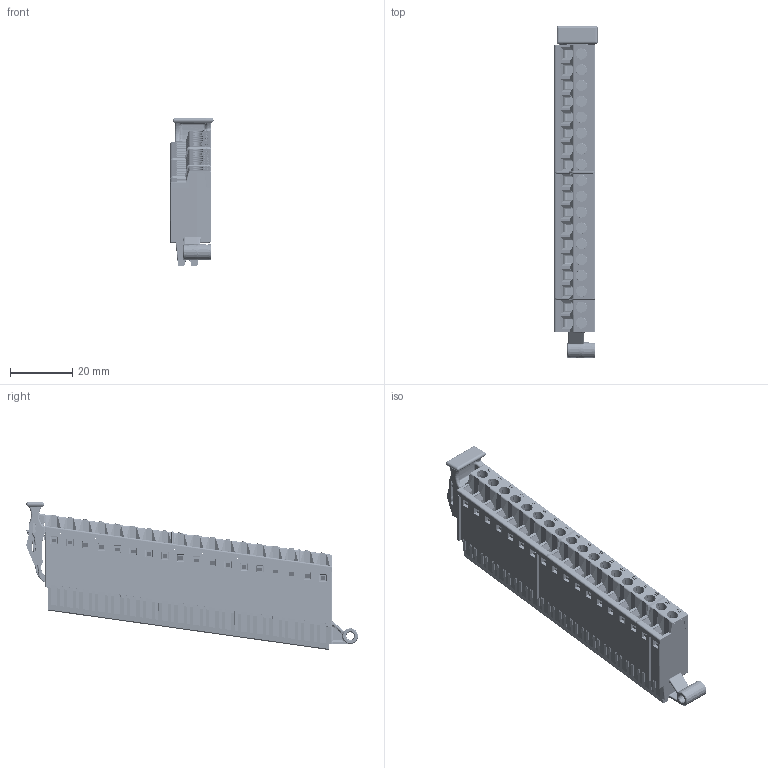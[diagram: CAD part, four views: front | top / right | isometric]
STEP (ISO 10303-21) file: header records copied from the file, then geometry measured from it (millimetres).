
FILE_DESCRIPTION((''),'2;1');
FILE_NAME('PN-235494_53165_RTBT_5_08_18_AU','2015-06-25T',('sreddy2'),('Rockwell Automation'),'PRO/ENGINEER BY PARAMETRIC TECHNOLOGY CORPORATION, 2012480','PRO/ENGINEER BY PARAMETRIC TECHNOLOGY CORPORATION, 2012480','');
FILE_SCHEMA(('CONFIG_CONTROL_DESIGN'));
Products named in the file (1): PN-235494_53165_RTBT_5_08_18_AU
Bounding box: 13.85 x 106.55 x 47.53 mm (x, y, z)
Volume: 17198.8 mm3; surface area: 36148.4 mm2
Topology: 21 solids, 21 shells, 10672 faces, 30390 edges, 19784 vertices
Faces by surface type: plane 6608, cylinder 2318, bspline 1020, torus 320, cone 240, sphere 88, extrusion 42, revolution 36
Entity records: 382119 total; most frequent: CARTESIAN_POINT 111216, ORIENTED_EDGE 60514, DIRECTION 50566, EDGE_CURVE 30257, VECTOR 20860, LINE 20818, VERTEX_POINT 19784, AXIS2_PLACEMENT_3D 14835
